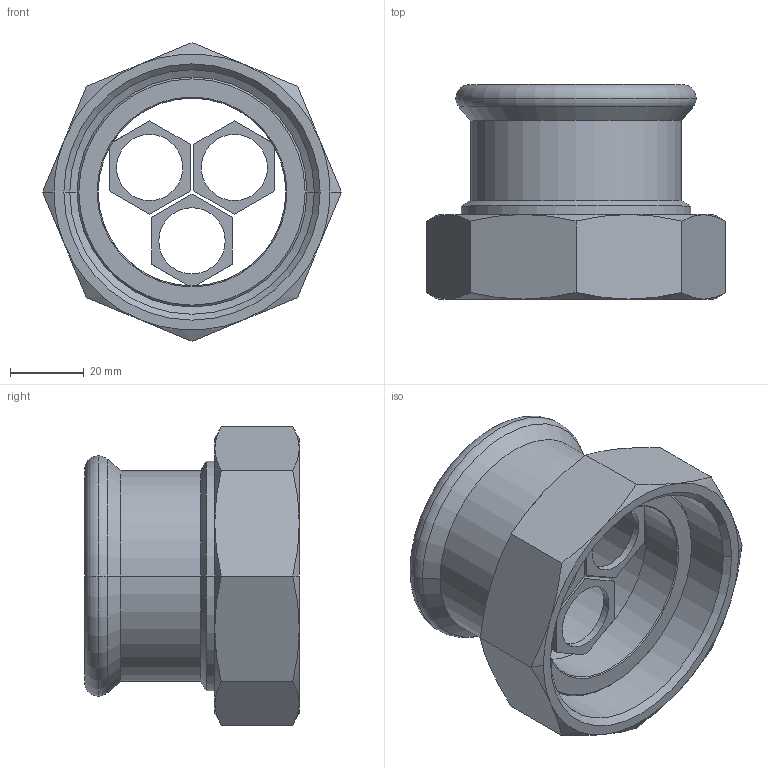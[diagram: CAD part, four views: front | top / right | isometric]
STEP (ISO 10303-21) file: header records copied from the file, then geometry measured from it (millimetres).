
FILE_DESCRIPTION(('OneSpaceDesigner STEP Export'),'2;1');
FILE_NAME('R2704 54xG2 3-8.stp','2010-06-09T10:21:43',(''),(''),'OneSpace Designer STEP processor for AP214 (Solid Model)','OneSpace Modeling 15.00A 14-Mar-2007 (C) CoCreate Software GmbH','');
FILE_SCHEMA(('AUTOMOTIVE_DESIGN { 1 0 10303 214 1 1 1 1 }'));
Length unit declared in the file: millimetre
Products named in the file (2): R2704_54xG2.3-8
Assembly tree (1 placements, depth 2):
  R2704_54xG2.3-8
    R2704_54xG2.3-8
Bounding box: 81.18 x 58.33 x 81.18 mm (x, y, z)
Volume: 56551.5 mm3; surface area: 33174.6 mm2
Topology: 1 solids, 1 shells, 109 faces, 254 edges, 153 vertices
Faces by surface type: plane 40, cone 36, cylinder 25, torus 8
Entity records: 3931 total; most frequent: CARTESIAN_POINT 1768, ORIENTED_EDGE 508, DIRECTION 332, EDGE_CURVE 254, VERTEX_POINT 153, EDGE_LOOP 123, VECTOR 120, LINE 120
